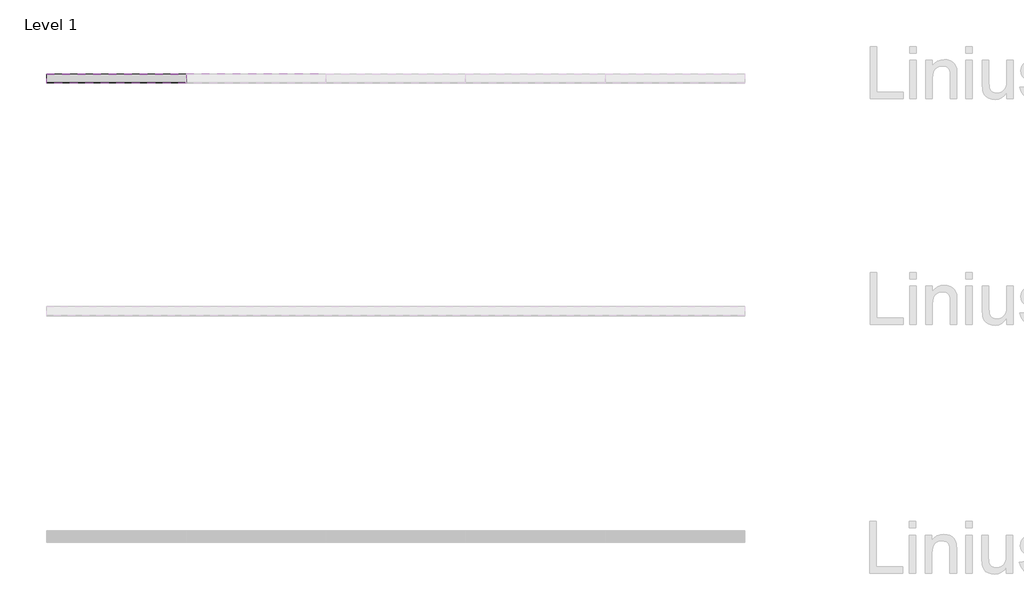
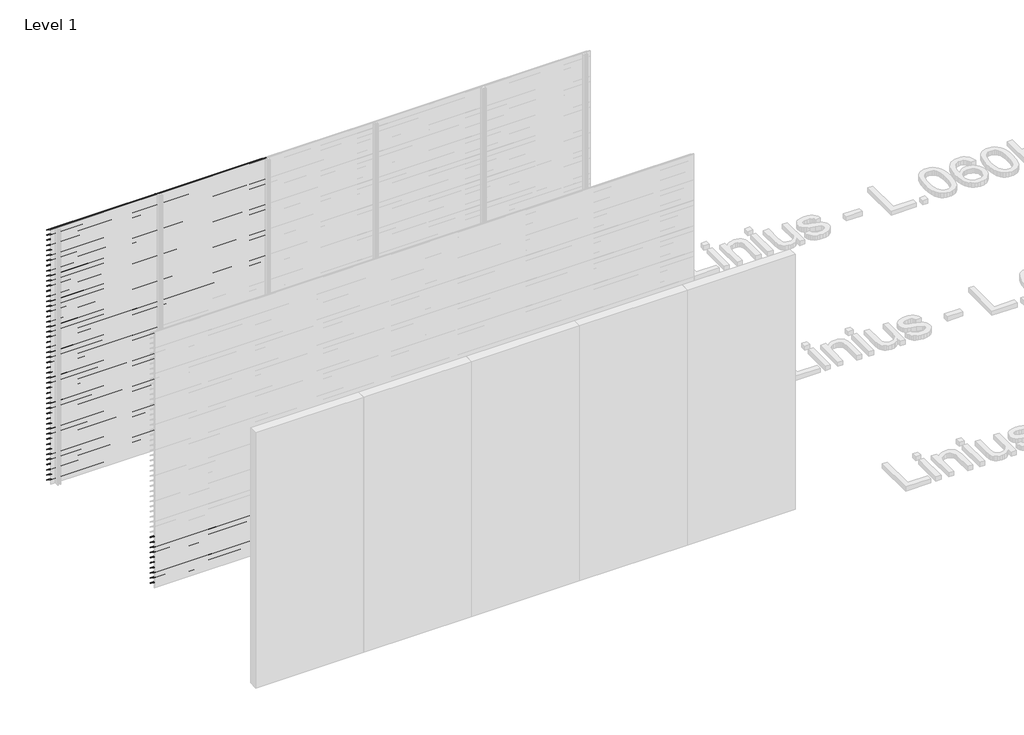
# One storey, part 84 of 153: 84 proxies.
"""IFC4 building model written with IfcOpenShell, lengths in millimetres."""

from ifc_helpers import new_model, si_unit, frame, origin, place, context, project, spatial, polyline, outline, extrude, element, save

model = new_model("IFC4")

# Units and contexts
model_context = context("Model", 3, world=origin())
ifc_project = project(units=[si_unit("LENGTHUNIT", "METRE", prefix="MILLI")], contexts=[model_context])

# Site, building, storey
site = spatial("IfcSite", under=ifc_project)
building = spatial("IfcBuilding", under=site)
storey = spatial("IfcBuildingStorey", under=building, Name="Level 1", Elevation=0.0)

# Proxies
placement = place(None, origin())
element("IfcBuildingElementProxy", 1, Name="Wall Sweeps", at=placement, inside=storey, context=model_context, shape_type="SweptSolid", body=[
    extrude(outline(polyline([(59061.0540136, 2946.0), (59061.0540136, 2940.0), (59059.8040136, 2940.7216933), (59059.8040136, 2945.2538091), (58983.0540136, 2993.9915103), (58983.0540136, 3000.0), (58984.3040136, 3000.0), (58984.3040136, 2994.7377012), (59061.0540136, 2946.0)])), frame((466.6208097, 0.0, 0.0), z_axis=(1.0, 0.0, 0.0), x_axis=(0.0, 1.0, 0.0)), (0.0, 0.0, 1.0), 1200.0000002),
])
element("IfcBuildingElementProxy", 2, Name="Wall Sweeps", at=placement, inside=storey, context=model_context, shape_type="SweptSolid", body=[
    extrude(outline(polyline([(59061.0540136, 2886.0), (59061.0540136, 2880.0), (59059.8040136, 2880.7216933), (59059.8040136, 2885.2538091), (58983.0540136, 2933.9915103), (58983.0540136, 2940.0), (58984.3040136, 2940.0), (58984.3040136, 2934.7377012), (59061.0540136, 2886.0)])), frame((466.6208097, 0.0, 0.0), z_axis=(1.0, 0.0, 0.0), x_axis=(0.0, 1.0, 0.0)), (0.0, 0.0, 1.0), 1200.0000002),
])
element("IfcBuildingElementProxy", 3, Name="Wall Sweeps", at=placement, inside=storey, context=model_context, shape_type="SweptSolid", body=[
    extrude(outline(polyline([(59061.0540136, 2826.0), (59061.0540136, 2820.0), (59059.8040136, 2820.7216933), (59059.8040136, 2825.2538091), (58983.0540136, 2873.9915103), (58983.0540136, 2880.0), (58984.3040136, 2880.0), (58984.3040136, 2874.7377012), (59061.0540136, 2826.0)])), frame((466.6208097, 0.0, 0.0), z_axis=(1.0, 0.0, 0.0), x_axis=(0.0, 1.0, 0.0)), (0.0, 0.0, 1.0), 1200.0000002),
])
element("IfcBuildingElementProxy", 4, Name="Wall Sweeps", at=placement, inside=storey, context=model_context, shape_type="SweptSolid", body=[
    extrude(outline(polyline([(59061.0540136, 2766.0), (59061.0540136, 2760.0), (59059.8040136, 2760.7216933), (59059.8040136, 2765.2538091), (58983.0540136, 2813.9915103), (58983.0540136, 2820.0), (58984.3040136, 2820.0), (58984.3040136, 2814.7377012), (59061.0540136, 2766.0)])), frame((466.6208097, 0.0, 0.0), z_axis=(1.0, 0.0, 0.0), x_axis=(0.0, 1.0, 0.0)), (0.0, 0.0, 1.0), 1200.0000002),
])
element("IfcBuildingElementProxy", 5, Name="Wall Sweeps", at=placement, inside=storey, context=model_context, shape_type="SweptSolid", body=[
    extrude(outline(polyline([(59061.0540136, 2706.0), (59061.0540136, 2700.0), (59059.8040136, 2700.7216933), (59059.8040136, 2705.2538091), (58983.0540136, 2753.9915103), (58983.0540136, 2760.0), (58984.3040136, 2760.0), (58984.3040136, 2754.7377012), (59061.0540136, 2706.0)])), frame((466.6208097, 0.0, 0.0), z_axis=(1.0, 0.0, 0.0), x_axis=(0.0, 1.0, 0.0)), (0.0, 0.0, 1.0), 1200.0000002),
])
element("IfcBuildingElementProxy", 6, Name="Wall Sweeps", at=placement, inside=storey, context=model_context, shape_type="SweptSolid", body=[
    extrude(outline(polyline([(59061.0540136, 2646.0), (59061.0540136, 2640.0), (59059.8040136, 2640.7216933), (59059.8040136, 2645.2538091), (58983.0540136, 2693.9915103), (58983.0540136, 2700.0), (58984.3040136, 2700.0), (58984.3040136, 2694.7377012), (59061.0540136, 2646.0)])), frame((466.6208097, 0.0, 0.0), z_axis=(1.0, 0.0, 0.0), x_axis=(0.0, 1.0, 0.0)), (0.0, 0.0, 1.0), 1200.0000002),
])
element("IfcBuildingElementProxy", 7, Name="Wall Sweeps", at=placement, inside=storey, context=model_context, shape_type="SweptSolid", body=[
    extrude(outline(polyline([(59061.0540136, 2586.0), (59061.0540136, 2580.0), (59059.8040136, 2580.7216933), (59059.8040136, 2585.2538091), (58983.0540136, 2633.9915103), (58983.0540136, 2640.0), (58984.3040136, 2640.0), (58984.3040136, 2634.7377012), (59061.0540136, 2586.0)])), frame((466.6208097, 0.0, 0.0), z_axis=(1.0, 0.0, 0.0), x_axis=(0.0, 1.0, 0.0)), (0.0, 0.0, 1.0), 1200.0000002),
])
element("IfcBuildingElementProxy", 8, Name="Wall Sweeps", at=placement, inside=storey, context=model_context, shape_type="SweptSolid", body=[
    extrude(outline(polyline([(59061.0540136, 2526.0), (59061.0540136, 2520.0), (59059.8040136, 2520.7216933), (59059.8040136, 2525.2538091), (58983.0540136, 2573.9915103), (58983.0540136, 2580.0), (58984.3040136, 2580.0), (58984.3040136, 2574.7377012), (59061.0540136, 2526.0)])), frame((466.6208097, 0.0, 0.0), z_axis=(1.0, 0.0, 0.0), x_axis=(0.0, 1.0, 0.0)), (0.0, 0.0, 1.0), 1200.0000002),
])
element("IfcBuildingElementProxy", 9, Name="Wall Sweeps", at=placement, inside=storey, context=model_context, shape_type="SweptSolid", body=[
    extrude(outline(polyline([(59061.0540136, 2466.0), (59061.0540136, 2460.0), (59059.8040136, 2460.7216933), (59059.8040136, 2465.2538091), (58983.0540136, 2513.9915103), (58983.0540136, 2520.0), (58984.3040136, 2520.0), (58984.3040136, 2514.7377012), (59061.0540136, 2466.0)])), frame((466.6208097, 0.0, 0.0), z_axis=(1.0, 0.0, 0.0), x_axis=(0.0, 1.0, 0.0)), (0.0, 0.0, 1.0), 1200.0000002),
])
element("IfcBuildingElementProxy", 10, Name="Wall Sweeps", at=placement, inside=storey, context=model_context, shape_type="SweptSolid", body=[
    extrude(outline(polyline([(59061.0540136, 2406.0), (59061.0540136, 2400.0), (59059.8040136, 2400.7216933), (59059.8040136, 2405.2538091), (58983.0540136, 2453.9915103), (58983.0540136, 2460.0), (58984.3040136, 2460.0), (58984.3040136, 2454.7377012), (59061.0540136, 2406.0)])), frame((466.6208097, 0.0, 0.0), z_axis=(1.0, 0.0, 0.0), x_axis=(0.0, 1.0, 0.0)), (0.0, 0.0, 1.0), 1200.0000002),
])
element("IfcBuildingElementProxy", 11, Name="Wall Sweeps", at=placement, inside=storey, context=model_context, shape_type="SweptSolid", body=[
    extrude(outline(polyline([(59061.0540136, 2346.0), (59061.0540136, 2340.0), (59059.8040136, 2340.7216933), (59059.8040136, 2345.2538091), (58983.0540136, 2393.9915103), (58983.0540136, 2400.0), (58984.3040136, 2400.0), (58984.3040136, 2394.7377012), (59061.0540136, 2346.0)])), frame((466.6208097, 0.0, 0.0), z_axis=(1.0, 0.0, 0.0), x_axis=(0.0, 1.0, 0.0)), (0.0, 0.0, 1.0), 1200.0000002),
])
element("IfcBuildingElementProxy", 12, Name="Wall Sweeps", at=placement, inside=storey, context=model_context, shape_type="SweptSolid", body=[
    extrude(outline(polyline([(59061.0540136, 2286.0), (59061.0540136, 2280.0), (59059.8040136, 2280.7216933), (59059.8040136, 2285.2538091), (58983.0540136, 2333.9915103), (58983.0540136, 2340.0), (58984.3040136, 2340.0), (58984.3040136, 2334.7377012), (59061.0540136, 2286.0)])), frame((466.6208097, 0.0, 0.0), z_axis=(1.0, 0.0, 0.0), x_axis=(0.0, 1.0, 0.0)), (0.0, 0.0, 1.0), 1200.0000002),
])
element("IfcBuildingElementProxy", 13, Name="Wall Sweeps", at=placement, inside=storey, context=model_context, shape_type="SweptSolid", body=[
    extrude(outline(polyline([(59061.0540136, 2226.0), (59061.0540136, 2220.0), (59059.8040136, 2220.7216933), (59059.8040136, 2225.2538091), (58983.0540136, 2273.9915103), (58983.0540136, 2280.0), (58984.3040136, 2280.0), (58984.3040136, 2274.7377012), (59061.0540136, 2226.0)])), frame((466.6208097, 0.0, 0.0), z_axis=(1.0, 0.0, 0.0), x_axis=(0.0, 1.0, 0.0)), (0.0, 0.0, 1.0), 1200.0000002),
])
element("IfcBuildingElementProxy", 14, Name="Wall Sweeps", at=placement, inside=storey, context=model_context, shape_type="SweptSolid", body=[
    extrude(outline(polyline([(59061.0540136, 2166.0), (59061.0540136, 2160.0), (59059.8040136, 2160.7216933), (59059.8040136, 2165.2538091), (58983.0540136, 2213.9915103), (58983.0540136, 2220.0), (58984.3040136, 2220.0), (58984.3040136, 2214.7377012), (59061.0540136, 2166.0)])), frame((466.6208097, 0.0, 0.0), z_axis=(1.0, 0.0, 0.0), x_axis=(0.0, 1.0, 0.0)), (0.0, 0.0, 1.0), 1200.0000002),
])
element("IfcBuildingElementProxy", 15, Name="Wall Sweeps", at=placement, inside=storey, context=model_context, shape_type="SweptSolid", body=[
    extrude(outline(polyline([(59061.0540136, 2106.0), (59061.0540136, 2100.0), (59059.8040136, 2100.7216933), (59059.8040136, 2105.2538091), (58983.0540136, 2153.9915103), (58983.0540136, 2160.0), (58984.3040136, 2160.0), (58984.3040136, 2154.7377012), (59061.0540136, 2106.0)])), frame((466.6208097, 0.0, 0.0), z_axis=(1.0, 0.0, 0.0), x_axis=(0.0, 1.0, 0.0)), (0.0, 0.0, 1.0), 1200.0000002),
])
element("IfcBuildingElementProxy", 16, Name="Wall Sweeps", at=placement, inside=storey, context=model_context, shape_type="SweptSolid", body=[
    extrude(outline(polyline([(59061.0540136, 2046.0), (59061.0540136, 2040.0), (59059.8040136, 2040.7216933), (59059.8040136, 2045.2538091), (58983.0540136, 2093.9915103), (58983.0540136, 2100.0), (58984.3040136, 2100.0), (58984.3040136, 2094.7377012), (59061.0540136, 2046.0)])), frame((466.6208097, 0.0, 0.0), z_axis=(1.0, 0.0, 0.0), x_axis=(0.0, 1.0, 0.0)), (0.0, 0.0, 1.0), 1200.0000002),
])
element("IfcBuildingElementProxy", 17, Name="Wall Sweeps", at=placement, inside=storey, context=model_context, shape_type="SweptSolid", body=[
    extrude(outline(polyline([(59061.0540136, 1986.0), (59061.0540136, 1980.0), (59059.8040136, 1980.7216933), (59059.8040136, 1985.2538091), (58983.0540136, 2033.9915103), (58983.0540136, 2040.0), (58984.3040136, 2040.0), (58984.3040136, 2034.7377012), (59061.0540136, 1986.0)])), frame((466.6208097, 0.0, 0.0), z_axis=(1.0, 0.0, 0.0), x_axis=(0.0, 1.0, 0.0)), (0.0, 0.0, 1.0), 1200.0000002),
])
element("IfcBuildingElementProxy", 18, Name="Wall Sweeps", at=placement, inside=storey, context=model_context, shape_type="SweptSolid", body=[
    extrude(outline(polyline([(59061.0540136, 1926.0), (59061.0540136, 1920.0), (59059.8040136, 1920.7216933), (59059.8040136, 1925.2538091), (58983.0540136, 1973.9915103), (58983.0540136, 1980.0), (58984.3040136, 1980.0), (58984.3040136, 1974.7377012), (59061.0540136, 1926.0)])), frame((466.6208097, 0.0, 0.0), z_axis=(1.0, 0.0, 0.0), x_axis=(0.0, 1.0, 0.0)), (0.0, 0.0, 1.0), 1200.0000002),
])
element("IfcBuildingElementProxy", 19, Name="Wall Sweeps", at=placement, inside=storey, context=model_context, shape_type="SweptSolid", body=[
    extrude(outline(polyline([(59061.0540136, 1866.0), (59061.0540136, 1860.0), (59059.8040136, 1860.7216933), (59059.8040136, 1865.2538091), (58983.0540136, 1913.9915103), (58983.0540136, 1920.0), (58984.3040136, 1920.0), (58984.3040136, 1914.7377012), (59061.0540136, 1866.0)])), frame((466.6208097, 0.0, 0.0), z_axis=(1.0, 0.0, 0.0), x_axis=(0.0, 1.0, 0.0)), (0.0, 0.0, 1.0), 1200.0000002),
])
element("IfcBuildingElementProxy", 20, Name="Wall Sweeps", at=placement, inside=storey, context=model_context, shape_type="SweptSolid", body=[
    extrude(outline(polyline([(59061.0540136, 1806.0), (59061.0540136, 1800.0), (59059.8040136, 1800.7216933), (59059.8040136, 1805.2538091), (58983.0540136, 1853.9915103), (58983.0540136, 1860.0), (58984.3040136, 1860.0), (58984.3040136, 1854.7377012), (59061.0540136, 1806.0)])), frame((466.6208097, 0.0, 0.0), z_axis=(1.0, 0.0, 0.0), x_axis=(0.0, 1.0, 0.0)), (0.0, 0.0, 1.0), 1200.0000002),
])
element("IfcBuildingElementProxy", 21, Name="Wall Sweeps", at=placement, inside=storey, context=model_context, shape_type="SweptSolid", body=[
    extrude(outline(polyline([(59061.0540136, 1746.0), (59061.0540136, 1740.0), (59059.8040136, 1740.7216933), (59059.8040136, 1745.2538091), (58983.0540136, 1793.9915103), (58983.0540136, 1800.0), (58984.3040136, 1800.0), (58984.3040136, 1794.7377012), (59061.0540136, 1746.0)])), frame((466.6208097, 0.0, 0.0), z_axis=(1.0, 0.0, 0.0), x_axis=(0.0, 1.0, 0.0)), (0.0, 0.0, 1.0), 1200.0000002),
])
element("IfcBuildingElementProxy", 22, Name="Wall Sweeps", at=placement, inside=storey, context=model_context, shape_type="SweptSolid", body=[
    extrude(outline(polyline([(59061.0540136, 1686.0), (59061.0540136, 1680.0), (59059.8040136, 1680.7216933), (59059.8040136, 1685.2538091), (58983.0540136, 1733.9915103), (58983.0540136, 1740.0), (58984.3040136, 1740.0), (58984.3040136, 1734.7377012), (59061.0540136, 1686.0)])), frame((466.6208097, 0.0, 0.0), z_axis=(1.0, 0.0, 0.0), x_axis=(0.0, 1.0, 0.0)), (0.0, 0.0, 1.0), 1200.0000002),
])
element("IfcBuildingElementProxy", 23, Name="Wall Sweeps", at=placement, inside=storey, context=model_context, shape_type="SweptSolid", body=[
    extrude(outline(polyline([(59061.0540136, 1626.0), (59061.0540136, 1620.0), (59059.8040136, 1620.7216933), (59059.8040136, 1625.2538091), (58983.0540136, 1673.9915103), (58983.0540136, 1680.0), (58984.3040136, 1680.0), (58984.3040136, 1674.7377012), (59061.0540136, 1626.0)])), frame((466.6208097, 0.0, 0.0), z_axis=(1.0, 0.0, 0.0), x_axis=(0.0, 1.0, 0.0)), (0.0, 0.0, 1.0), 1200.0000002),
])
element("IfcBuildingElementProxy", 24, Name="Wall Sweeps", at=placement, inside=storey, context=model_context, shape_type="SweptSolid", body=[
    extrude(outline(polyline([(59061.0540136, 1566.0), (59061.0540136, 1560.0), (59059.8040136, 1560.7216933), (59059.8040136, 1565.2538091), (58983.0540136, 1613.9915103), (58983.0540136, 1620.0), (58984.3040136, 1620.0), (58984.3040136, 1614.7377012), (59061.0540136, 1566.0)])), frame((466.6208097, 0.0, 0.0), z_axis=(1.0, 0.0, 0.0), x_axis=(0.0, 1.0, 0.0)), (0.0, 0.0, 1.0), 1200.0000002),
])
element("IfcBuildingElementProxy", 25, Name="Wall Sweeps", at=placement, inside=storey, context=model_context, shape_type="SweptSolid", body=[
    extrude(outline(polyline([(59061.0540136, 1506.0), (59061.0540136, 1500.0), (59059.8040136, 1500.7216933), (59059.8040136, 1505.2538091), (58983.0540136, 1553.9915103), (58983.0540136, 1560.0), (58984.3040136, 1560.0), (58984.3040136, 1554.7377012), (59061.0540136, 1506.0)])), frame((466.6208097, 0.0, 0.0), z_axis=(1.0, 0.0, 0.0), x_axis=(0.0, 1.0, 0.0)), (0.0, 0.0, 1.0), 1200.0000002),
])
element("IfcBuildingElementProxy", 26, Name="Wall Sweeps", at=placement, inside=storey, context=model_context, shape_type="SweptSolid", body=[
    extrude(outline(polyline([(59061.0540136, 1446.0), (59061.0540136, 1440.0), (59059.8040136, 1440.7216933), (59059.8040136, 1445.2538091), (58983.0540136, 1493.9915103), (58983.0540136, 1500.0), (58984.3040136, 1500.0), (58984.3040136, 1494.7377012), (59061.0540136, 1446.0)])), frame((466.6208097, 0.0, 0.0), z_axis=(1.0, 0.0, 0.0), x_axis=(0.0, 1.0, 0.0)), (0.0, 0.0, 1.0), 1200.0000002),
])
element("IfcBuildingElementProxy", 27, Name="Wall Sweeps", at=placement, inside=storey, context=model_context, shape_type="SweptSolid", body=[
    extrude(outline(polyline([(59061.0540136, 1386.0), (59061.0540136, 1380.0), (59059.8040136, 1380.7216933), (59059.8040136, 1385.2538091), (58983.0540136, 1433.9915103), (58983.0540136, 1440.0), (58984.3040136, 1440.0), (58984.3040136, 1434.7377012), (59061.0540136, 1386.0)])), frame((466.6208097, 0.0, 0.0), z_axis=(1.0, 0.0, 0.0), x_axis=(0.0, 1.0, 0.0)), (0.0, 0.0, 1.0), 1200.0000002),
])
element("IfcBuildingElementProxy", 28, Name="Wall Sweeps", at=placement, inside=storey, context=model_context, shape_type="SweptSolid", body=[
    extrude(outline(polyline([(59061.0540136, 1326.0), (59061.0540136, 1320.0), (59059.8040136, 1320.7216933), (59059.8040136, 1325.2538091), (58983.0540136, 1373.9915103), (58983.0540136, 1380.0), (58984.3040136, 1380.0), (58984.3040136, 1374.7377012), (59061.0540136, 1326.0)])), frame((466.6208097, 0.0, 0.0), z_axis=(1.0, 0.0, 0.0), x_axis=(0.0, 1.0, 0.0)), (0.0, 0.0, 1.0), 1200.0000002),
])
element("IfcBuildingElementProxy", 29, Name="Wall Sweeps", at=placement, inside=storey, context=model_context, shape_type="SweptSolid", body=[
    extrude(outline(polyline([(59061.0540136, 1266.0), (59061.0540136, 1260.0), (59059.8040136, 1260.7216933), (59059.8040136, 1265.2538091), (58983.0540136, 1313.9915103), (58983.0540136, 1320.0), (58984.3040136, 1320.0), (58984.3040136, 1314.7377012), (59061.0540136, 1266.0)])), frame((466.6208097, 0.0, 0.0), z_axis=(1.0, 0.0, 0.0), x_axis=(0.0, 1.0, 0.0)), (0.0, 0.0, 1.0), 1200.0000002),
])
element("IfcBuildingElementProxy", 30, Name="Wall Sweeps", at=placement, inside=storey, context=model_context, shape_type="SweptSolid", body=[
    extrude(outline(polyline([(59061.0540136, 1206.0), (59061.0540136, 1200.0), (59059.8040136, 1200.7216933), (59059.8040136, 1205.2538091), (58983.0540136, 1253.9915103), (58983.0540136, 1260.0), (58984.3040136, 1260.0), (58984.3040136, 1254.7377012), (59061.0540136, 1206.0)])), frame((466.6208097, 0.0, 0.0), z_axis=(1.0, 0.0, 0.0), x_axis=(0.0, 1.0, 0.0)), (0.0, 0.0, 1.0), 1200.0000002),
])
element("IfcBuildingElementProxy", 31, Name="Wall Sweeps", at=placement, inside=storey, context=model_context, shape_type="SweptSolid", body=[
    extrude(outline(polyline([(59061.0540136, 1146.0), (59061.0540136, 1140.0), (59059.8040136, 1140.7216933), (59059.8040136, 1145.2538091), (58983.0540136, 1193.9915103), (58983.0540136, 1200.0), (58984.3040136, 1200.0), (58984.3040136, 1194.7377012), (59061.0540136, 1146.0)])), frame((466.6208097, 0.0, 0.0), z_axis=(1.0, 0.0, 0.0), x_axis=(0.0, 1.0, 0.0)), (0.0, 0.0, 1.0), 1200.0000002),
])
element("IfcBuildingElementProxy", 32, Name="Wall Sweeps", at=placement, inside=storey, context=model_context, shape_type="SweptSolid", body=[
    extrude(outline(polyline([(59061.0540136, 1086.0), (59061.0540136, 1080.0), (59059.8040136, 1080.7216933), (59059.8040136, 1085.2538091), (58983.0540136, 1133.9915103), (58983.0540136, 1140.0), (58984.3040136, 1140.0), (58984.3040136, 1134.7377012), (59061.0540136, 1086.0)])), frame((466.6208097, 0.0, 0.0), z_axis=(1.0, 0.0, 0.0), x_axis=(0.0, 1.0, 0.0)), (0.0, 0.0, 1.0), 1200.0000002),
])
element("IfcBuildingElementProxy", 33, Name="Wall Sweeps", at=placement, inside=storey, context=model_context, shape_type="SweptSolid", body=[
    extrude(outline(polyline([(59061.0540136, 1026.0), (59061.0540136, 1020.0), (59059.8040136, 1020.7216933), (59059.8040136, 1025.2538091), (58983.0540136, 1073.9915103), (58983.0540136, 1080.0), (58984.3040136, 1080.0), (58984.3040136, 1074.7377012), (59061.0540136, 1026.0)])), frame((466.6208097, 0.0, 0.0), z_axis=(1.0, 0.0, 0.0), x_axis=(0.0, 1.0, 0.0)), (0.0, 0.0, 1.0), 1200.0000002),
])
element("IfcBuildingElementProxy", 34, Name="Wall Sweeps", at=placement, inside=storey, context=model_context, shape_type="SweptSolid", body=[
    extrude(outline(polyline([(59061.0540136, 966.0), (59061.0540136, 960.0), (59059.8040136, 960.7216933), (59059.8040136, 965.2538091), (58983.0540136, 1013.9915103), (58983.0540136, 1020.0), (58984.3040136, 1020.0), (58984.3040136, 1014.7377012), (59061.0540136, 966.0)])), frame((466.6208097, 0.0, 0.0), z_axis=(1.0, 0.0, 0.0), x_axis=(0.0, 1.0, 0.0)), (0.0, 0.0, 1.0), 1200.0000002),
])
element("IfcBuildingElementProxy", 35, Name="Wall Sweeps", at=placement, inside=storey, context=model_context, shape_type="SweptSolid", body=[
    extrude(outline(polyline([(59061.0540136, 906.0), (59061.0540136, 900.0), (59059.8040136, 900.7216933), (59059.8040136, 905.2538091), (58983.0540136, 953.9915103), (58983.0540136, 960.0), (58984.3040136, 960.0), (58984.3040136, 954.7377012), (59061.0540136, 906.0)])), frame((466.6208097, 0.0, 0.0), z_axis=(1.0, 0.0, 0.0), x_axis=(0.0, 1.0, 0.0)), (0.0, 0.0, 1.0), 1200.0000002),
])
element("IfcBuildingElementProxy", 36, Name="Wall Sweeps", at=placement, inside=storey, context=model_context, shape_type="SweptSolid", body=[
    extrude(outline(polyline([(59061.0540136, 846.0), (59061.0540136, 840.0), (59059.8040136, 840.7216933), (59059.8040136, 845.2538091), (58983.0540136, 893.9915103), (58983.0540136, 900.0), (58984.3040136, 900.0), (58984.3040136, 894.7377012), (59061.0540136, 846.0)])), frame((466.6208097, 0.0, 0.0), z_axis=(1.0, 0.0, 0.0), x_axis=(0.0, 1.0, 0.0)), (0.0, 0.0, 1.0), 1200.0000002),
])
element("IfcBuildingElementProxy", 37, Name="Wall Sweeps", at=placement, inside=storey, context=model_context, shape_type="SweptSolid", body=[
    extrude(outline(polyline([(59061.0540136, 786.0), (59061.0540136, 780.0), (59059.8040136, 780.7216933), (59059.8040136, 785.2538091), (58983.0540136, 833.9915103), (58983.0540136, 840.0), (58984.3040136, 840.0), (58984.3040136, 834.7377012), (59061.0540136, 786.0)])), frame((466.6208097, 0.0, 0.0), z_axis=(1.0, 0.0, 0.0), x_axis=(0.0, 1.0, 0.0)), (0.0, 0.0, 1.0), 1200.0000002),
])
element("IfcBuildingElementProxy", 38, Name="Wall Sweeps", at=placement, inside=storey, context=model_context, shape_type="SweptSolid", body=[
    extrude(outline(polyline([(59061.0540136, 726.0), (59061.0540136, 720.0), (59059.8040136, 720.7216933), (59059.8040136, 725.2538091), (58983.0540136, 773.9915103), (58983.0540136, 780.0), (58984.3040136, 780.0), (58984.3040136, 774.7377012), (59061.0540136, 726.0)])), frame((466.6208097, 0.0, 0.0), z_axis=(1.0, 0.0, 0.0), x_axis=(0.0, 1.0, 0.0)), (0.0, 0.0, 1.0), 1200.0000002),
])
element("IfcBuildingElementProxy", 39, Name="Wall Sweeps", at=placement, inside=storey, context=model_context, shape_type="SweptSolid", body=[
    extrude(outline(polyline([(59061.0540136, 666.0), (59061.0540136, 660.0), (59059.8040136, 660.7216933), (59059.8040136, 665.2538091), (58983.0540136, 713.9915103), (58983.0540136, 720.0), (58984.3040136, 720.0), (58984.3040136, 714.7377012), (59061.0540136, 666.0)])), frame((466.6208097, 0.0, 0.0), z_axis=(1.0, 0.0, 0.0), x_axis=(0.0, 1.0, 0.0)), (0.0, 0.0, 1.0), 1200.0000002),
])
element("IfcBuildingElementProxy", 40, Name="Wall Sweeps", at=placement, inside=storey, context=model_context, shape_type="SweptSolid", body=[
    extrude(outline(polyline([(59061.0540136, 606.0), (59061.0540136, 600.0), (59059.8040136, 600.7216933), (59059.8040136, 605.2538091), (58983.0540136, 653.9915103), (58983.0540136, 660.0), (58984.3040136, 660.0), (58984.3040136, 654.7377012), (59061.0540136, 606.0)])), frame((466.6208097, 0.0, 0.0), z_axis=(1.0, 0.0, 0.0), x_axis=(0.0, 1.0, 0.0)), (0.0, 0.0, 1.0), 1200.0000002),
])
element("IfcBuildingElementProxy", 41, Name="Wall Sweeps", at=placement, inside=storey, context=model_context, shape_type="SweptSolid", body=[
    extrude(outline(polyline([(59061.0540136, 546.0), (59061.0540136, 540.0), (59059.8040136, 540.7216933), (59059.8040136, 545.2538091), (58983.0540136, 593.9915103), (58983.0540136, 600.0), (58984.3040136, 600.0), (58984.3040136, 594.7377012), (59061.0540136, 546.0)])), frame((466.6208097, 0.0, 0.0), z_axis=(1.0, 0.0, 0.0), x_axis=(0.0, 1.0, 0.0)), (0.0, 0.0, 1.0), 1200.0000002),
])
element("IfcBuildingElementProxy", 42, Name="Wall Sweeps", at=placement, inside=storey, context=model_context, shape_type="SweptSolid", body=[
    extrude(outline(polyline([(59061.0540136, 486.0), (59061.0540136, 480.0), (59059.8040136, 480.7216933), (59059.8040136, 485.2538091), (58983.0540136, 533.9915103), (58983.0540136, 540.0), (58984.3040136, 540.0), (58984.3040136, 534.7377012), (59061.0540136, 486.0)])), frame((466.6208097, 0.0, 0.0), z_axis=(1.0, 0.0, 0.0), x_axis=(0.0, 1.0, 0.0)), (0.0, 0.0, 1.0), 1200.0000002),
])
element("IfcBuildingElementProxy", 43, Name="Wall Sweeps", at=placement, inside=storey, context=model_context, shape_type="SweptSolid", body=[
    extrude(outline(polyline([(59061.0540136, 426.0), (59061.0540136, 420.0), (59059.8040136, 420.7216933), (59059.8040136, 425.2538091), (58983.0540136, 473.9915103), (58983.0540136, 480.0), (58984.3040136, 480.0), (58984.3040136, 474.7377012), (59061.0540136, 426.0)])), frame((466.6208097, 0.0, 0.0), z_axis=(1.0, 0.0, 0.0), x_axis=(0.0, 1.0, 0.0)), (0.0, 0.0, 1.0), 1200.0000002),
])
element("IfcBuildingElementProxy", 44, Name="Wall Sweeps", at=placement, inside=storey, context=model_context, shape_type="SweptSolid", body=[
    extrude(outline(polyline([(59061.0540136, 366.0), (59061.0540136, 360.0), (59059.8040136, 360.7216933), (59059.8040136, 365.2538091), (58983.0540136, 413.9915103), (58983.0540136, 420.0), (58984.3040136, 420.0), (58984.3040136, 414.7377012), (59061.0540136, 366.0)])), frame((466.6208097, 0.0, 0.0), z_axis=(1.0, 0.0, 0.0), x_axis=(0.0, 1.0, 0.0)), (0.0, 0.0, 1.0), 1200.0000002),
])
element("IfcBuildingElementProxy", 45, Name="Wall Sweeps", at=placement, inside=storey, context=model_context, shape_type="SweptSolid", body=[
    extrude(outline(polyline([(59061.0540136, 306.0), (59061.0540136, 300.0), (59059.8040136, 300.7216933), (59059.8040136, 305.2538091), (58983.0540136, 353.9915103), (58983.0540136, 360.0), (58984.3040136, 360.0), (58984.3040136, 354.7377012), (59061.0540136, 306.0)])), frame((466.6208097, 0.0, 0.0), z_axis=(1.0, 0.0, 0.0), x_axis=(0.0, 1.0, 0.0)), (0.0, 0.0, 1.0), 1200.0000002),
])
element("IfcBuildingElementProxy", 46, Name="Wall Sweeps", at=placement, inside=storey, context=model_context, shape_type="SweptSolid", body=[
    extrude(outline(polyline([(59061.0540136, 246.0), (59061.0540136, 240.0), (59059.8040136, 240.7216933), (59059.8040136, 245.2538091), (58983.0540136, 293.9915103), (58983.0540136, 300.0), (58984.3040136, 300.0), (58984.3040136, 294.7377012), (59061.0540136, 246.0)])), frame((466.6208097, 0.0, 0.0), z_axis=(1.0, 0.0, 0.0), x_axis=(0.0, 1.0, 0.0)), (0.0, 0.0, 1.0), 1200.0000002),
])
element("IfcBuildingElementProxy", 47, Name="Wall Sweeps", at=placement, inside=storey, context=model_context, shape_type="SweptSolid", body=[
    extrude(outline(polyline([(59061.0540136, 186.0), (59061.0540136, 180.0), (59059.8040136, 180.7216933), (59059.8040136, 185.2538091), (58983.0540136, 233.9915103), (58983.0540136, 240.0), (58984.3040136, 240.0), (58984.3040136, 234.7377012), (59061.0540136, 186.0)])), frame((466.6208097, 0.0, 0.0), z_axis=(1.0, 0.0, 0.0), x_axis=(0.0, 1.0, 0.0)), (0.0, 0.0, 1.0), 1200.0000002),
])
element("IfcBuildingElementProxy", 48, Name="Wall Sweeps", at=placement, inside=storey, context=model_context, shape_type="SweptSolid", body=[
    extrude(outline(polyline([(59061.0540136, 126.0), (59061.0540136, 120.0), (59059.8040136, 120.7216933), (59059.8040136, 125.2538091), (58983.0540136, 173.9915103), (58983.0540136, 180.0), (58984.3040136, 180.0), (58984.3040136, 174.7377012), (59061.0540136, 126.0)])), frame((466.6208097, 0.0, 0.0), z_axis=(1.0, 0.0, 0.0), x_axis=(0.0, 1.0, 0.0)), (0.0, 0.0, 1.0), 1200.0000002),
])
element("IfcBuildingElementProxy", 49, Name="Wall Sweeps", at=placement, inside=storey, context=model_context, shape_type="SweptSolid", body=[
    extrude(outline(polyline([(59061.0540136, 66.0), (59061.0540136, 60.0), (59059.8040136, 60.7216933), (59059.8040136, 65.2538091), (58983.0540136, 113.9915103), (58983.0540136, 120.0), (58984.3040136, 120.0), (58984.3040136, 114.7377012), (59061.0540136, 66.0)])), frame((466.6208097, 0.0, 0.0), z_axis=(1.0, 0.0, 0.0), x_axis=(0.0, 1.0, 0.0)), (0.0, 0.0, 1.0), 1200.0000002),
])
element("IfcBuildingElementProxy", 50, Name="Wall Sweeps", at=placement, inside=storey, context=model_context, shape_type="SweptSolid", body=[
    extrude(outline(polyline([(59061.0540136, 6.0), (59061.0540136, 0.0), (59059.8040136, 0.7216933), (59059.8040136, 5.2538091), (58983.0540136, 53.9915103), (58983.0540136, 60.0), (58984.3040136, 60.0), (58984.3040136, 54.7377012), (59061.0540136, 6.0)])), frame((466.6208097, 0.0, 0.0), z_axis=(1.0, 0.0, 0.0), x_axis=(0.0, 1.0, 0.0)), (0.0, 0.0, 1.0), 1200.0000002),
])
element("IfcBuildingElementProxy", 51, Name="Wall Sweeps", at=placement, inside=storey, context=model_context, shape_type="SweptSolid", body=[
    extrude(outline(polyline([(59061.0540136, 2946.0), (59061.0540136, 2940.0), (59059.8040136, 2940.7216933), (59059.8040136, 2945.2538091), (58983.0540136, 2993.9915103), (58983.0540136, 3000.0), (58984.3040136, 3000.0), (58984.3040136, 2994.7377012), (59061.0540136, 2946.0)])), frame((1666.6208099, 0.0, 0.0), z_axis=(1.0, 0.0, 0.0), x_axis=(0.0, 1.0, 0.0)), (0.0, 0.0, 1.0), 1199.9999999),
])
element("IfcBuildingElementProxy", 52, Name="Wall Sweeps", at=placement, inside=storey, context=model_context, shape_type="SweptSolid", body=[
    extrude(outline(polyline([(59061.0540136, 2886.0), (59061.0540136, 2880.0), (59059.8040136, 2880.7216933), (59059.8040136, 2885.2538091), (58983.0540136, 2933.9915103), (58983.0540136, 2940.0), (58984.3040136, 2940.0), (58984.3040136, 2934.7377012), (59061.0540136, 2886.0)])), frame((1666.6208099, 0.0, 0.0), z_axis=(1.0, 0.0, 0.0), x_axis=(0.0, 1.0, 0.0)), (0.0, 0.0, 1.0), 1199.9999999),
])
element("IfcBuildingElementProxy", 53, Name="Wall Sweeps", at=placement, inside=storey, context=model_context, shape_type="SweptSolid", body=[
    extrude(outline(polyline([(59061.0540136, 2826.0), (59061.0540136, 2820.0), (59059.8040136, 2820.7216933), (59059.8040136, 2825.2538091), (58983.0540136, 2873.9915103), (58983.0540136, 2880.0), (58984.3040136, 2880.0), (58984.3040136, 2874.7377012), (59061.0540136, 2826.0)])), frame((1666.6208099, 0.0, 0.0), z_axis=(1.0, 0.0, 0.0), x_axis=(0.0, 1.0, 0.0)), (0.0, 0.0, 1.0), 1199.9999999),
])
element("IfcBuildingElementProxy", 54, Name="Wall Sweeps", at=placement, inside=storey, context=model_context, shape_type="SweptSolid", body=[
    extrude(outline(polyline([(59061.0540136, 2766.0), (59061.0540136, 2760.0), (59059.8040136, 2760.7216933), (59059.8040136, 2765.2538091), (58983.0540136, 2813.9915103), (58983.0540136, 2820.0), (58984.3040136, 2820.0), (58984.3040136, 2814.7377012), (59061.0540136, 2766.0)])), frame((1666.6208099, 0.0, 0.0), z_axis=(1.0, 0.0, 0.0), x_axis=(0.0, 1.0, 0.0)), (0.0, 0.0, 1.0), 1199.9999999),
])
element("IfcBuildingElementProxy", 55, Name="Wall Sweeps", at=placement, inside=storey, context=model_context, shape_type="SweptSolid", body=[
    extrude(outline(polyline([(59061.0540136, 2706.0), (59061.0540136, 2700.0), (59059.8040136, 2700.7216933), (59059.8040136, 2705.2538091), (58983.0540136, 2753.9915103), (58983.0540136, 2760.0), (58984.3040136, 2760.0), (58984.3040136, 2754.7377012), (59061.0540136, 2706.0)])), frame((1666.6208099, 0.0, 0.0), z_axis=(1.0, 0.0, 0.0), x_axis=(0.0, 1.0, 0.0)), (0.0, 0.0, 1.0), 1199.9999999),
])
element("IfcBuildingElementProxy", 56, Name="Wall Sweeps", at=placement, inside=storey, context=model_context, shape_type="SweptSolid", body=[
    extrude(outline(polyline([(59061.0540136, 2646.0), (59061.0540136, 2640.0), (59059.8040136, 2640.7216933), (59059.8040136, 2645.2538091), (58983.0540136, 2693.9915103), (58983.0540136, 2700.0), (58984.3040136, 2700.0), (58984.3040136, 2694.7377012), (59061.0540136, 2646.0)])), frame((1666.6208099, 0.0, 0.0), z_axis=(1.0, 0.0, 0.0), x_axis=(0.0, 1.0, 0.0)), (0.0, 0.0, 1.0), 1199.9999999),
])
element("IfcBuildingElementProxy", 57, Name="Wall Sweeps", at=placement, inside=storey, context=model_context, shape_type="SweptSolid", body=[
    extrude(outline(polyline([(59061.0540136, 2586.0), (59061.0540136, 2580.0), (59059.8040136, 2580.7216933), (59059.8040136, 2585.2538091), (58983.0540136, 2633.9915103), (58983.0540136, 2640.0), (58984.3040136, 2640.0), (58984.3040136, 2634.7377012), (59061.0540136, 2586.0)])), frame((1666.6208099, 0.0, 0.0), z_axis=(1.0, 0.0, 0.0), x_axis=(0.0, 1.0, 0.0)), (0.0, 0.0, 1.0), 1199.9999999),
])
element("IfcBuildingElementProxy", 58, Name="Wall Sweeps", at=placement, inside=storey, context=model_context, shape_type="SweptSolid", body=[
    extrude(outline(polyline([(59061.0540136, 2526.0), (59061.0540136, 2520.0), (59059.8040136, 2520.7216933), (59059.8040136, 2525.2538091), (58983.0540136, 2573.9915103), (58983.0540136, 2580.0), (58984.3040136, 2580.0), (58984.3040136, 2574.7377012), (59061.0540136, 2526.0)])), frame((1666.6208099, 0.0, 0.0), z_axis=(1.0, 0.0, 0.0), x_axis=(0.0, 1.0, 0.0)), (0.0, 0.0, 1.0), 1199.9999999),
])
element("IfcBuildingElementProxy", 59, Name="Wall Sweeps", at=placement, inside=storey, context=model_context, shape_type="SweptSolid", body=[
    extrude(outline(polyline([(59061.0540136, 2466.0), (59061.0540136, 2460.0), (59059.8040136, 2460.7216933), (59059.8040136, 2465.2538091), (58983.0540136, 2513.9915103), (58983.0540136, 2520.0), (58984.3040136, 2520.0), (58984.3040136, 2514.7377012), (59061.0540136, 2466.0)])), frame((1666.6208099, 0.0, 0.0), z_axis=(1.0, 0.0, 0.0), x_axis=(0.0, 1.0, 0.0)), (0.0, 0.0, 1.0), 1199.9999999),
])
element("IfcBuildingElementProxy", 60, Name="Wall Sweeps", at=placement, inside=storey, context=model_context, shape_type="SweptSolid", body=[
    extrude(outline(polyline([(59061.0540136, 2406.0), (59061.0540136, 2400.0), (59059.8040136, 2400.7216933), (59059.8040136, 2405.2538091), (58983.0540136, 2453.9915103), (58983.0540136, 2460.0), (58984.3040136, 2460.0), (58984.3040136, 2454.7377012), (59061.0540136, 2406.0)])), frame((1666.6208099, 0.0, 0.0), z_axis=(1.0, 0.0, 0.0), x_axis=(0.0, 1.0, 0.0)), (0.0, 0.0, 1.0), 1199.9999999),
])
element("IfcBuildingElementProxy", 61, Name="Wall Sweeps", at=placement, inside=storey, context=model_context, shape_type="SweptSolid", body=[
    extrude(outline(polyline([(59061.0540136, 2346.0), (59061.0540136, 2340.0), (59059.8040136, 2340.7216933), (59059.8040136, 2345.2538091), (58983.0540136, 2393.9915103), (58983.0540136, 2400.0), (58984.3040136, 2400.0), (58984.3040136, 2394.7377012), (59061.0540136, 2346.0)])), frame((1666.6208099, 0.0, 0.0), z_axis=(1.0, 0.0, 0.0), x_axis=(0.0, 1.0, 0.0)), (0.0, 0.0, 1.0), 1199.9999999),
])
element("IfcBuildingElementProxy", 62, Name="Wall Sweeps", at=placement, inside=storey, context=model_context, shape_type="SweptSolid", body=[
    extrude(outline(polyline([(59061.0540136, 2286.0), (59061.0540136, 2280.0), (59059.8040136, 2280.7216933), (59059.8040136, 2285.2538091), (58983.0540136, 2333.9915103), (58983.0540136, 2340.0), (58984.3040136, 2340.0), (58984.3040136, 2334.7377012), (59061.0540136, 2286.0)])), frame((1666.6208099, 0.0, 0.0), z_axis=(1.0, 0.0, 0.0), x_axis=(0.0, 1.0, 0.0)), (0.0, 0.0, 1.0), 1199.9999999),
])
element("IfcBuildingElementProxy", 63, Name="Wall Sweeps", at=placement, inside=storey, context=model_context, shape_type="SweptSolid", body=[
    extrude(outline(polyline([(59061.0540136, 2226.0), (59061.0540136, 2220.0), (59059.8040136, 2220.7216933), (59059.8040136, 2225.2538091), (58983.0540136, 2273.9915103), (58983.0540136, 2280.0), (58984.3040136, 2280.0), (58984.3040136, 2274.7377012), (59061.0540136, 2226.0)])), frame((1666.6208099, 0.0, 0.0), z_axis=(1.0, 0.0, 0.0), x_axis=(0.0, 1.0, 0.0)), (0.0, 0.0, 1.0), 1199.9999999),
])
element("IfcBuildingElementProxy", 64, Name="Wall Sweeps", at=placement, inside=storey, context=model_context, shape_type="SweptSolid", body=[
    extrude(outline(polyline([(59061.0540136, 2166.0), (59061.0540136, 2160.0), (59059.8040136, 2160.7216933), (59059.8040136, 2165.2538091), (58983.0540136, 2213.9915103), (58983.0540136, 2220.0), (58984.3040136, 2220.0), (58984.3040136, 2214.7377012), (59061.0540136, 2166.0)])), frame((1666.6208099, 0.0, 0.0), z_axis=(1.0, 0.0, 0.0), x_axis=(0.0, 1.0, 0.0)), (0.0, 0.0, 1.0), 1199.9999999),
])
element("IfcBuildingElementProxy", 65, Name="Wall Sweeps", at=placement, inside=storey, context=model_context, shape_type="SweptSolid", body=[
    extrude(outline(polyline([(59061.0540136, 2106.0), (59061.0540136, 2100.0), (59059.8040136, 2100.7216933), (59059.8040136, 2105.2538091), (58983.0540136, 2153.9915103), (58983.0540136, 2160.0), (58984.3040136, 2160.0), (58984.3040136, 2154.7377012), (59061.0540136, 2106.0)])), frame((1666.6208099, 0.0, 0.0), z_axis=(1.0, 0.0, 0.0), x_axis=(0.0, 1.0, 0.0)), (0.0, 0.0, 1.0), 1199.9999999),
])
element("IfcBuildingElementProxy", 66, Name="Wall Sweeps", at=placement, inside=storey, context=model_context, shape_type="SweptSolid", body=[
    extrude(outline(polyline([(59061.0540136, 2046.0), (59061.0540136, 2040.0), (59059.8040136, 2040.7216933), (59059.8040136, 2045.2538091), (58983.0540136, 2093.9915103), (58983.0540136, 2100.0), (58984.3040136, 2100.0), (58984.3040136, 2094.7377012), (59061.0540136, 2046.0)])), frame((1666.6208099, 0.0, 0.0), z_axis=(1.0, 0.0, 0.0), x_axis=(0.0, 1.0, 0.0)), (0.0, 0.0, 1.0), 1199.9999999),
])
element("IfcBuildingElementProxy", 67, Name="Wall Sweeps", at=placement, inside=storey, context=model_context, shape_type="SweptSolid", body=[
    extrude(outline(polyline([(59061.0540136, 1986.0), (59061.0540136, 1980.0), (59059.8040136, 1980.7216933), (59059.8040136, 1985.2538091), (58983.0540136, 2033.9915103), (58983.0540136, 2040.0), (58984.3040136, 2040.0), (58984.3040136, 2034.7377012), (59061.0540136, 1986.0)])), frame((1666.6208099, 0.0, 0.0), z_axis=(1.0, 0.0, 0.0), x_axis=(0.0, 1.0, 0.0)), (0.0, 0.0, 1.0), 1199.9999999),
])
element("IfcBuildingElementProxy", 68, Name="Wall Sweeps", at=placement, inside=storey, context=model_context, shape_type="SweptSolid", body=[
    extrude(outline(polyline([(59061.0540136, 1926.0), (59061.0540136, 1920.0), (59059.8040136, 1920.7216933), (59059.8040136, 1925.2538091), (58983.0540136, 1973.9915103), (58983.0540136, 1980.0), (58984.3040136, 1980.0), (58984.3040136, 1974.7377012), (59061.0540136, 1926.0)])), frame((1666.6208099, 0.0, 0.0), z_axis=(1.0, 0.0, 0.0), x_axis=(0.0, 1.0, 0.0)), (0.0, 0.0, 1.0), 1199.9999999),
])
element("IfcBuildingElementProxy", 69, Name="Wall Sweeps", at=placement, inside=storey, context=model_context, shape_type="SweptSolid", body=[
    extrude(outline(polyline([(59061.0540136, 1866.0), (59061.0540136, 1860.0), (59059.8040136, 1860.7216933), (59059.8040136, 1865.2538091), (58983.0540136, 1913.9915103), (58983.0540136, 1920.0), (58984.3040136, 1920.0), (58984.3040136, 1914.7377012), (59061.0540136, 1866.0)])), frame((1666.6208099, 0.0, 0.0), z_axis=(1.0, 0.0, 0.0), x_axis=(0.0, 1.0, 0.0)), (0.0, 0.0, 1.0), 1199.9999999),
])
element("IfcBuildingElementProxy", 70, Name="Wall Sweeps", at=placement, inside=storey, context=model_context, shape_type="SweptSolid", body=[
    extrude(outline(polyline([(59061.0540136, 1806.0), (59061.0540136, 1800.0), (59059.8040136, 1800.7216933), (59059.8040136, 1805.2538091), (58983.0540136, 1853.9915103), (58983.0540136, 1860.0), (58984.3040136, 1860.0), (58984.3040136, 1854.7377012), (59061.0540136, 1806.0)])), frame((1666.6208099, 0.0, 0.0), z_axis=(1.0, 0.0, 0.0), x_axis=(0.0, 1.0, 0.0)), (0.0, 0.0, 1.0), 1199.9999999),
])
element("IfcBuildingElementProxy", 71, Name="Wall Sweeps", at=placement, inside=storey, context=model_context, shape_type="SweptSolid", body=[
    extrude(outline(polyline([(59061.0540136, 1746.0), (59061.0540136, 1740.0), (59059.8040136, 1740.7216933), (59059.8040136, 1745.2538091), (58983.0540136, 1793.9915103), (58983.0540136, 1800.0), (58984.3040136, 1800.0), (58984.3040136, 1794.7377012), (59061.0540136, 1746.0)])), frame((1666.6208099, 0.0, 0.0), z_axis=(1.0, 0.0, 0.0), x_axis=(0.0, 1.0, 0.0)), (0.0, 0.0, 1.0), 1199.9999999),
])
element("IfcBuildingElementProxy", 72, Name="Wall Sweeps", at=placement, inside=storey, context=model_context, shape_type="SweptSolid", body=[
    extrude(outline(polyline([(59061.0540136, 1686.0), (59061.0540136, 1680.0), (59059.8040136, 1680.7216933), (59059.8040136, 1685.2538091), (58983.0540136, 1733.9915103), (58983.0540136, 1740.0), (58984.3040136, 1740.0), (58984.3040136, 1734.7377012), (59061.0540136, 1686.0)])), frame((1666.6208099, 0.0, 0.0), z_axis=(1.0, 0.0, 0.0), x_axis=(0.0, 1.0, 0.0)), (0.0, 0.0, 1.0), 1199.9999999),
])
element("IfcBuildingElementProxy", 73, Name="Wall Sweeps", at=placement, inside=storey, context=model_context, shape_type="SweptSolid", body=[
    extrude(outline(polyline([(59061.0540136, 1626.0), (59061.0540136, 1620.0), (59059.8040136, 1620.7216933), (59059.8040136, 1625.2538091), (58983.0540136, 1673.9915103), (58983.0540136, 1680.0), (58984.3040136, 1680.0), (58984.3040136, 1674.7377012), (59061.0540136, 1626.0)])), frame((1666.6208099, 0.0, 0.0), z_axis=(1.0, 0.0, 0.0), x_axis=(0.0, 1.0, 0.0)), (0.0, 0.0, 1.0), 1199.9999999),
])
element("IfcBuildingElementProxy", 74, Name="Wall Sweeps", at=placement, inside=storey, context=model_context, shape_type="SweptSolid", body=[
    extrude(outline(polyline([(59061.0540136, 1566.0), (59061.0540136, 1560.0), (59059.8040136, 1560.7216933), (59059.8040136, 1565.2538091), (58983.0540136, 1613.9915103), (58983.0540136, 1620.0), (58984.3040136, 1620.0), (58984.3040136, 1614.7377012), (59061.0540136, 1566.0)])), frame((1666.6208099, 0.0, 0.0), z_axis=(1.0, 0.0, 0.0), x_axis=(0.0, 1.0, 0.0)), (0.0, 0.0, 1.0), 1199.9999999),
])
element("IfcBuildingElementProxy", 75, Name="Wall Sweeps", at=placement, inside=storey, context=model_context, shape_type="SweptSolid", body=[
    extrude(outline(polyline([(57061.0540136, 546.0), (57061.0540136, 540.0), (57059.8040136, 540.7216933), (57059.8040136, 545.2538091), (56983.0540136, 593.9915103), (56983.0540136, 600.0), (56984.3040136, 600.0), (56984.3040136, 594.7377012), (57061.0540136, 546.0)])), frame((466.6208097, 0.0, 0.0), z_axis=(1.0, 0.0, 0.0), x_axis=(0.0, 1.0, 0.0)), (0.0, 0.0, 1.0), 6000.0),
])
element("IfcBuildingElementProxy", 76, Name="Wall Sweeps", at=placement, inside=storey, context=model_context, shape_type="SweptSolid", body=[
    extrude(outline(polyline([(57061.0540136, 486.0), (57061.0540136, 480.0), (57059.8040136, 480.7216933), (57059.8040136, 485.2538091), (56983.0540136, 533.9915103), (56983.0540136, 540.0), (56984.3040136, 540.0), (56984.3040136, 534.7377012), (57061.0540136, 486.0)])), frame((466.6208097, 0.0, 0.0), z_axis=(1.0, 0.0, 0.0), x_axis=(0.0, 1.0, 0.0)), (0.0, 0.0, 1.0), 6000.0),
])
element("IfcBuildingElementProxy", 77, Name="Wall Sweeps", at=placement, inside=storey, context=model_context, shape_type="SweptSolid", body=[
    extrude(outline(polyline([(57061.0540136, 426.0), (57061.0540136, 420.0), (57059.8040136, 420.7216933), (57059.8040136, 425.2538091), (56983.0540136, 473.9915103), (56983.0540136, 480.0), (56984.3040136, 480.0), (56984.3040136, 474.7377012), (57061.0540136, 426.0)])), frame((466.6208097, 0.0, 0.0), z_axis=(1.0, 0.0, 0.0), x_axis=(0.0, 1.0, 0.0)), (0.0, 0.0, 1.0), 6000.0),
])
element("IfcBuildingElementProxy", 78, Name="Wall Sweeps", at=placement, inside=storey, context=model_context, shape_type="SweptSolid", body=[
    extrude(outline(polyline([(57061.0540136, 366.0), (57061.0540136, 360.0), (57059.8040136, 360.7216933), (57059.8040136, 365.2538091), (56983.0540136, 413.9915103), (56983.0540136, 420.0), (56984.3040136, 420.0), (56984.3040136, 414.7377012), (57061.0540136, 366.0)])), frame((466.6208097, 0.0, 0.0), z_axis=(1.0, 0.0, 0.0), x_axis=(0.0, 1.0, 0.0)), (0.0, 0.0, 1.0), 6000.0),
])
element("IfcBuildingElementProxy", 79, Name="Wall Sweeps", at=placement, inside=storey, context=model_context, shape_type="SweptSolid", body=[
    extrude(outline(polyline([(57061.0540136, 306.0), (57061.0540136, 300.0), (57059.8040136, 300.7216933), (57059.8040136, 305.2538091), (56983.0540136, 353.9915103), (56983.0540136, 360.0), (56984.3040136, 360.0), (56984.3040136, 354.7377012), (57061.0540136, 306.0)])), frame((466.6208097, 0.0, 0.0), z_axis=(1.0, 0.0, 0.0), x_axis=(0.0, 1.0, 0.0)), (0.0, 0.0, 1.0), 6000.0),
])
element("IfcBuildingElementProxy", 80, Name="Wall Sweeps", at=placement, inside=storey, context=model_context, shape_type="SweptSolid", body=[
    extrude(outline(polyline([(57061.0540136, 246.0), (57061.0540136, 240.0), (57059.8040136, 240.7216933), (57059.8040136, 245.2538091), (56983.0540136, 293.9915103), (56983.0540136, 300.0), (56984.3040136, 300.0), (56984.3040136, 294.7377012), (57061.0540136, 246.0)])), frame((466.6208097, 0.0, 0.0), z_axis=(1.0, 0.0, 0.0), x_axis=(0.0, 1.0, 0.0)), (0.0, 0.0, 1.0), 6000.0),
])
element("IfcBuildingElementProxy", 81, Name="Wall Sweeps", at=placement, inside=storey, context=model_context, shape_type="SweptSolid", body=[
    extrude(outline(polyline([(57061.0540136, 186.0), (57061.0540136, 180.0), (57059.8040136, 180.7216933), (57059.8040136, 185.2538091), (56983.0540136, 233.9915103), (56983.0540136, 240.0), (56984.3040136, 240.0), (56984.3040136, 234.7377012), (57061.0540136, 186.0)])), frame((466.6208097, 0.0, 0.0), z_axis=(1.0, 0.0, 0.0), x_axis=(0.0, 1.0, 0.0)), (0.0, 0.0, 1.0), 6000.0),
])
element("IfcBuildingElementProxy", 82, Name="Wall Sweeps", at=placement, inside=storey, context=model_context, shape_type="SweptSolid", body=[
    extrude(outline(polyline([(57061.0540136, 126.0), (57061.0540136, 120.0), (57059.8040136, 120.7216933), (57059.8040136, 125.2538091), (56983.0540136, 173.9915103), (56983.0540136, 180.0), (56984.3040136, 180.0), (56984.3040136, 174.7377012), (57061.0540136, 126.0)])), frame((466.6208097, 0.0, 0.0), z_axis=(1.0, 0.0, 0.0), x_axis=(0.0, 1.0, 0.0)), (0.0, 0.0, 1.0), 6000.0),
])
element("IfcBuildingElementProxy", 83, Name="Wall Sweeps", at=placement, inside=storey, context=model_context, shape_type="SweptSolid", body=[
    extrude(outline(polyline([(57061.0540136, 66.0), (57061.0540136, 60.0), (57059.8040136, 60.7216933), (57059.8040136, 65.2538091), (56983.0540136, 113.9915103), (56983.0540136, 120.0), (56984.3040136, 120.0), (56984.3040136, 114.7377012), (57061.0540136, 66.0)])), frame((466.6208097, 0.0, 0.0), z_axis=(1.0, 0.0, 0.0), x_axis=(0.0, 1.0, 0.0)), (0.0, 0.0, 1.0), 6000.0),
])
element("IfcBuildingElementProxy", 84, Name="Wall Sweeps", at=placement, inside=storey, context=model_context, shape_type="SweptSolid", body=[
    extrude(outline(polyline([(57061.0540136, 6.0), (57061.0540136, 0.0), (57059.8040136, 0.7216933), (57059.8040136, 5.2538091), (56983.0540136, 53.9915103), (56983.0540136, 60.0), (56984.3040136, 60.0), (56984.3040136, 54.7377012), (57061.0540136, 6.0)])), frame((466.6208097, 0.0, 0.0), z_axis=(1.0, 0.0, 0.0), x_axis=(0.0, 1.0, 0.0)), (0.0, 0.0, 1.0), 6000.0),
])

save(model, "model.ifc")
